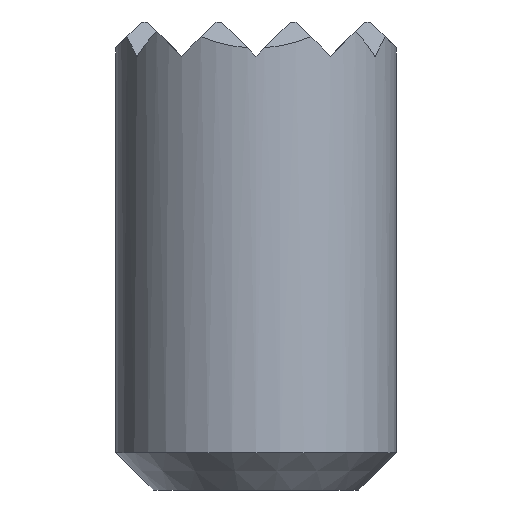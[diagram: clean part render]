
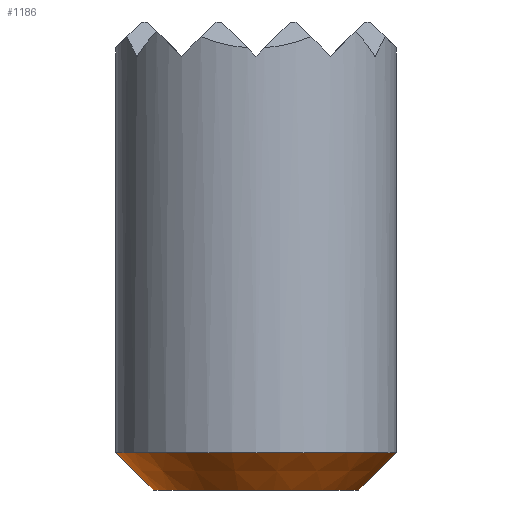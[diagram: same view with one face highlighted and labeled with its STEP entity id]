
A CAD part, front view. The second image highlights one B-rep face of the part: STEP entity #1186.
In plain terms, the highlighted conical face has half-angle 45 degrees and reference radius 3 mm.
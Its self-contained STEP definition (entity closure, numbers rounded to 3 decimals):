
#22 = DIRECTION ( 'NONE',  ( 0., 0., 1. ) ) ;
#33 = CIRCLE ( 'NONE', #560, 2.2 ) ;
#51 = CARTESIAN_POINT ( 'NONE',  ( 2.2, 0., 0. ) ) ;
#69 = CARTESIAN_POINT ( 'NONE',  ( 0., 0., 0.8 ) ) ;
#176 = CARTESIAN_POINT ( 'NONE',  ( 0., 0., 0. ) ) ;
#260 = VERTEX_POINT ( 'NONE', #51 ) ;
#427 = CARTESIAN_POINT ( 'NONE',  ( 0., 0., 0.8 ) ) ;
#489 = CARTESIAN_POINT ( 'NONE',  ( -3., 0., 0.8 ) ) ;
#560 = AXIS2_PLACEMENT_3D ( 'NONE', #176, #1801, #1772 ) ;
#569 = EDGE_CURVE ( 'NONE', #260, #1435, #1524, .T. ) ;
#656 = DIRECTION ( 'NONE',  ( 1., 0., 0. ) ) ;
#757 = CARTESIAN_POINT ( 'NONE',  ( 3., 0., 0.8 ) ) ;
#767 = VERTEX_POINT ( 'NONE', #1025 ) ;
#848 = CARTESIAN_POINT ( 'NONE',  ( -2.2, 0., 0. ) ) ;
#907 = DIRECTION ( 'NONE',  ( 0.707, 0., 0.707 ) ) ;
#914 = EDGE_CURVE ( 'NONE', #1376, #767, #1648, .T. ) ;
#916 = ORIENTED_EDGE ( 'NONE', *, *, #914, .F. ) ;
#936 = CONICAL_SURFACE ( 'NONE', #1890, 3., 0.785 ) ;
#950 = FACE_OUTER_BOUND ( 'NONE', #2095, .T. ) ;
#996 = VECTOR ( 'NONE', #1280, 1000. ) ;
#1025 = CARTESIAN_POINT ( 'NONE',  ( -3., 0., 0.8 ) ) ;
#1128 = VECTOR ( 'NONE', #907, 1000. ) ;
#1186 = ADVANCED_FACE ( 'NONE', ( #950 ), #936, .T. ) ;
#1221 = EDGE_CURVE ( 'NONE', #260, #1376, #33, .T. ) ;
#1280 = DIRECTION ( 'NONE',  ( -0.707, 0., 0.707 ) ) ;
#1304 = AXIS2_PLACEMENT_3D ( 'NONE', #69, #22, #1330 ) ;
#1330 = DIRECTION ( 'NONE',  ( 1., 0., 0. ) ) ;
#1362 = CARTESIAN_POINT ( 'NONE',  ( 3., 0., 0.8 ) ) ;
#1376 = VERTEX_POINT ( 'NONE', #848 ) ;
#1381 = EDGE_CURVE ( 'NONE', #767, #1435, #1613, .T. ) ;
#1435 = VERTEX_POINT ( 'NONE', #1362 ) ;
#1524 = LINE ( 'NONE', #757, #1128 ) ;
#1613 = CIRCLE ( 'NONE', #1304, 3. ) ;
#1648 = LINE ( 'NONE', #489, #996 ) ;
#1772 = DIRECTION ( 'NONE',  ( 1., 0., 0. ) ) ;
#1801 = DIRECTION ( 'NONE',  ( 0., 0., -1. ) ) ;
#1890 = AXIS2_PLACEMENT_3D ( 'NONE', #427, #2065, #656 ) ;
#1941 = ORIENTED_EDGE ( 'NONE', *, *, #569, .T. ) ;
#1961 = ORIENTED_EDGE ( 'NONE', *, *, #1221, .F. ) ;
#2060 = ORIENTED_EDGE ( 'NONE', *, *, #1381, .F. ) ;
#2065 = DIRECTION ( 'NONE',  ( 0., 0., 1. ) ) ;
#2095 = EDGE_LOOP ( 'NONE', ( #916, #1961, #1941, #2060 ) ) ;
